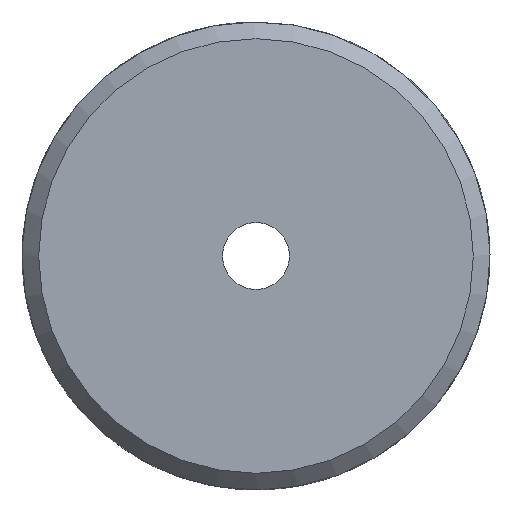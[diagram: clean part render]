
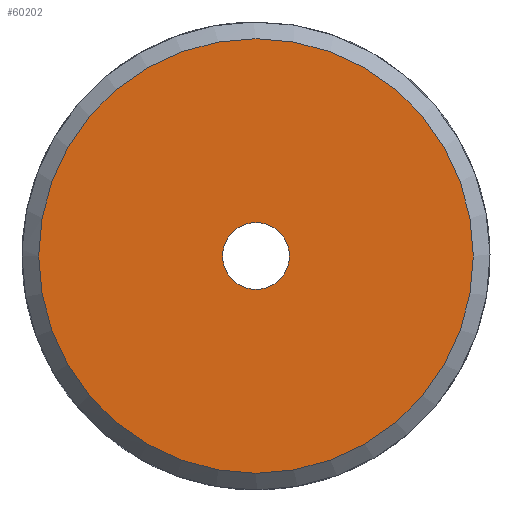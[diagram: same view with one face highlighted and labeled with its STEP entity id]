
A CAD part, left-side view. The second image highlights one B-rep face of the part: STEP entity #60202.
In plain terms, the highlighted planar face has unit normal (-1, 0, 0).
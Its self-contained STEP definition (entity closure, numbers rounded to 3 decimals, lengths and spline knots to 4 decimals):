
#17197=PLANE('',#59436);
#22177=ORIENTED_EDGE('',*,*,#25599,.F.);
#22178=ORIENTED_EDGE('',*,*,#25598,.F.);
#22736=CIRCLE('',#59435,1.);
#22737=CIRCLE('',#59437,6.5);
#23881=VERTEX_POINT('',#58321);
#23882=VERTEX_POINT('',#58324);
#25598=EDGE_CURVE('',#23881,#23881,#22736,.T.);
#25599=EDGE_CURVE('',#23882,#23882,#22737,.T.);
#26178=EDGE_LOOP('',(#22177));
#26179=EDGE_LOOP('',(#22178));
#26760=FACE_BOUND('',#26178,.T.);
#26761=FACE_BOUND('',#26179,.T.);
#28976=DIRECTION('',(-1.,0.,0.));
#28977=DIRECTION('',(0.,0.,1.));
#28978=DIRECTION('',(-1.,0.,0.));
#28979=DIRECTION('',(0.,1.,0.));
#28980=DIRECTION('',(1.,0.,0.));
#28981=DIRECTION('',(0.,0.,-6.5));
#58321=CARTESIAN_POINT('',(12.0006,57.4985,1.));
#58322=CARTESIAN_POINT('',(12.0006,57.4985,0.));
#58323=CARTESIAN_POINT('',(12.0006,57.4985,-6.5));
#58324=CARTESIAN_POINT('',(12.0006,57.4985,-6.5));
#58325=CARTESIAN_POINT('',(12.0006,57.4985,0.));
#59435=AXIS2_PLACEMENT_3D('',#58322,#28976,#28977);
#59436=AXIS2_PLACEMENT_3D('',#58323,#28978,#28979);
#59437=AXIS2_PLACEMENT_3D('',#58325,#28980,#28981);
#60202=ADVANCED_FACE('',(#26760,#26761),#17197,.T.);
